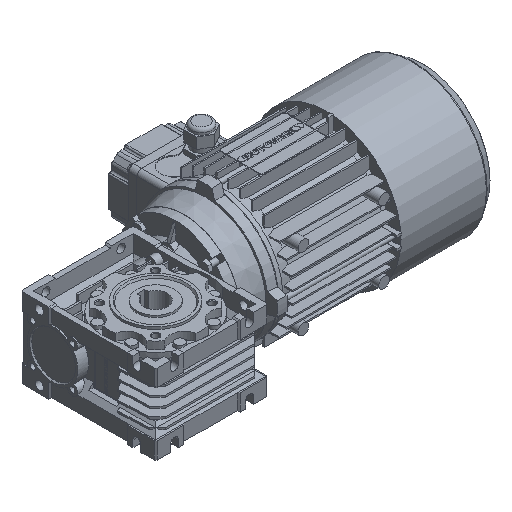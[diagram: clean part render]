
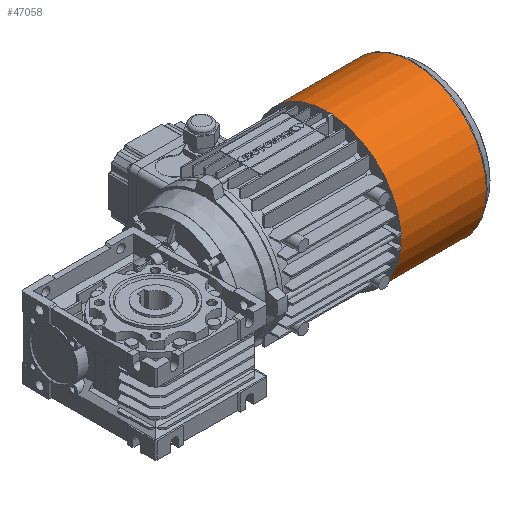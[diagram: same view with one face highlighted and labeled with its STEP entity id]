
A CAD part, isometric view. The second image highlights one B-rep face of the part: STEP entity #47058.
In plain terms, the highlighted cylindrical face has radius 78.95 mm (diameter 157.9 mm), a full revolution.
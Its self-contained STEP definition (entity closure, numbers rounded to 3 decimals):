
#17591=ORIENTED_EDGE('',*,*,#28345,.F.);
#17592=ORIENTED_EDGE('',*,*,#28344,.T.);
#28344=EDGE_CURVE('',#34289,#34289,#38184,.T.);
#28345=EDGE_CURVE('',#34290,#34290,#38185,.T.);
#34289=VERTEX_POINT('',#81234);
#34290=VERTEX_POINT('',#81237);
#38184=CIRCLE('',#57787,78.95);
#38185=CIRCLE('',#57789,78.95);
#40342=EDGE_LOOP('',(#17591));
#40343=EDGE_LOOP('',(#17592));
#43265=FACE_BOUND('',#40342,.T.);
#43266=FACE_BOUND('',#40343,.T.);
#45574=CYLINDRICAL_SURFACE('',#57788,78.95);
#47058=ADVANCED_FACE('',(#43265,#43266),#45574,.T.);
#57787=AXIS2_PLACEMENT_3D('',#81233,#67286,#67287);
#57788=AXIS2_PLACEMENT_3D('',#81235,#67288,#67289);
#57789=AXIS2_PLACEMENT_3D('',#81236,#67290,#67291);
#67286=DIRECTION('',(1.,0.,0.));
#67287=DIRECTION('',(0.,0.,-1.));
#67288=DIRECTION('',(1.,0.,0.));
#67289=DIRECTION('',(0.,0.,-1.));
#67290=DIRECTION('',(1.,0.,0.));
#67291=DIRECTION('',(0.,0.,-1.));
#81233=CARTESIAN_POINT('',(0.,0.,0.));
#81234=CARTESIAN_POINT('',(0.,0.,-78.95));
#81235=CARTESIAN_POINT('',(103.,0.,0.));
#81236=CARTESIAN_POINT('',(91.016,0.,0.));
#81237=CARTESIAN_POINT('',(91.016,0.,-78.95));
